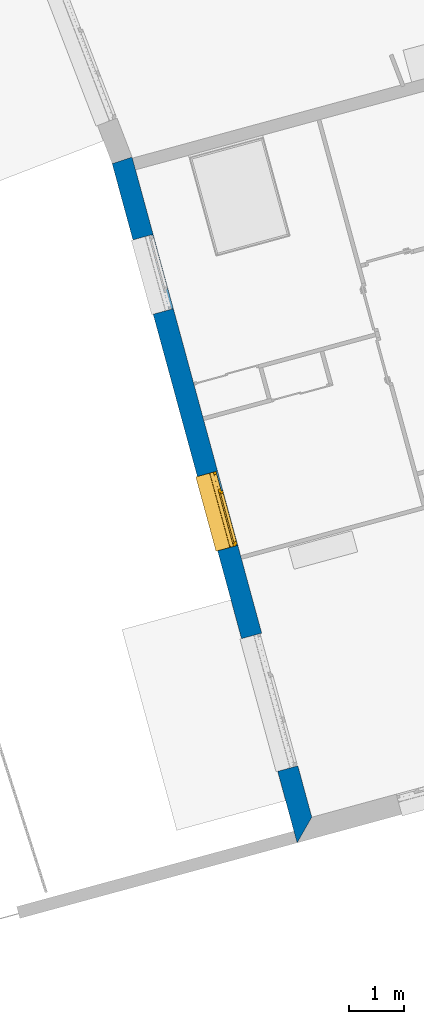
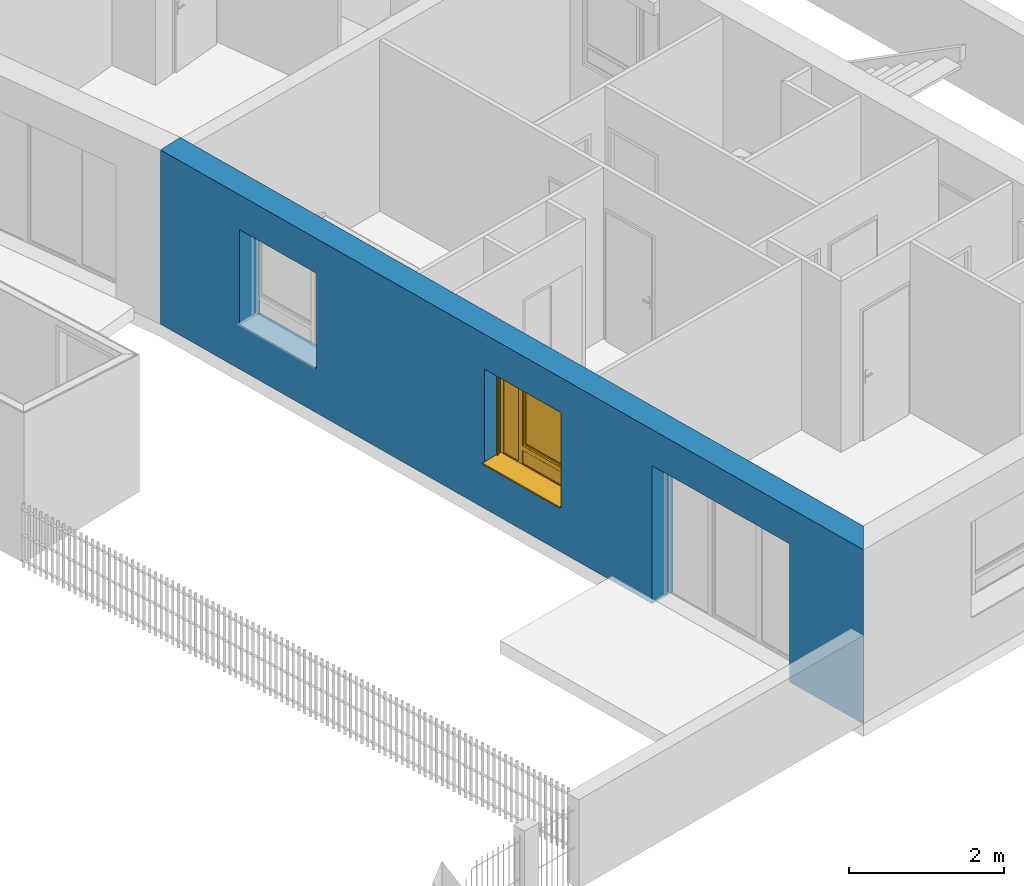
# One storey, part 71 of 195: 1 wall, 1 window, 3 openings.
"""IFC2X3 building model written with IfcOpenShell, lengths in metres."""

from ifc_helpers import new_model, entity, si_unit, converted_unit, derived_unit, money_unit, direction, frame, origin_with_axes, place, context, subcontext, project, spatial, polyline, outline, extrude, open_shell, faceted_brep, surface_model, source, transform, mapped, material, layer, layer_set, layer_usage, type_object, element, fill, save


model = new_model("IFC2X3")

# Units and contexts
model_context = context("Model", 3, precision=1e-05, world=origin_with_axes(), true_north=direction((0.0, 1.0)))
body_context = subcontext(model_context, "Body", "Model", "MODEL_VIEW")
ifc_project = project(units=[si_unit("LENGTHUNIT", "METRE"), si_unit("AREAUNIT", "SQUARE_METRE"), si_unit("VOLUMEUNIT", "CUBIC_METRE"), converted_unit("PLANEANGLEUNIT", "DEGREE", entity("IfcPlaneAngleMeasure", 0.0174532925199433), si_unit("PLANEANGLEUNIT", "RADIAN"), dimensions=[0, 0, 0, 0, 0, 0, 0]), money_unit("CHF"), converted_unit("TIMEUNIT", "Year", entity("IfcTimeMeasure", 31557600.0), si_unit("TIMEUNIT", "SECOND"), dimensions=[0, 0, 1, 0, 0, 0, 0]), si_unit("MASSUNIT", "GRAM", prefix="KILO"), si_unit("THERMODYNAMICTEMPERATUREUNIT", "DEGREE_CELSIUS"), si_unit("LUMINOUSINTENSITYUNIT", "LUMEN"), si_unit("ENERGYUNIT", "JOULE", prefix="MEGA"), derived_unit("THERMALCONDUCTANCEUNIT", [(si_unit("POWERUNIT", "WATT"), 1), (si_unit("LENGTHUNIT", "METRE"), -1), (si_unit("THERMODYNAMICTEMPERATUREUNIT", "KELVIN"), -1)]), derived_unit("SPECIFICHEATCAPACITYUNIT", [(si_unit("ENERGYUNIT", "JOULE"), 1), (si_unit("MASSUNIT", "GRAM", prefix="KILO"), -1), (si_unit("THERMODYNAMICTEMPERATUREUNIT", "KELVIN"), -1)]), derived_unit("MASSDENSITYUNIT", [(si_unit("MASSUNIT", "GRAM", prefix="KILO"), 1), (si_unit("VOLUMEUNIT", "CUBIC_METRE"), -1)])], contexts=[model_context])

# Site, building, storey
site_placement = place(None, origin_with_axes())
site = spatial("IfcSite", under=ifc_project, at=site_placement, Name="Site", CompositionType="ELEMENT")
building_placement = place(site_placement, origin_with_axes())
building = spatial("IfcBuilding", under=site, at=building_placement, Name="Bâtiment", CompositionType="ELEMENT")
storey_placement = place(building_placement, origin_with_axes())
storey = spatial("IfcBuildingStorey", under=building, at=storey_placement, Name="rdc", CompositionType="ELEMENT", Elevation=0.0)

# Wall, openings, window
ifc_material_1 = material(Name="Parpaing 312445824")
ifc_layer_1 = layer(ifc_material_1, 0.22, ventilated="UNKNOWN")
ifc_material_2 = material(Name="Isolant styromousse 301821074")
ifc_layer_2 = layer(ifc_material_2, 0.16, ventilated="UNKNOWN")
ifc_layer_set = layer_set([ifc_layer_1, ifc_layer_2], Name="isol int 22+16 0836643197")
ifc_layer_usage = layer_usage(ifc_layer_set, "AXIS2", "POSITIVE", 0.0)
wall_type = type_object("IfcWallType", Name="isol int 22+16 0836643197 380", PredefinedType="NOTDEFINED")
wall_placement = place(storey_placement, frame((9586.378108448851, -1047.081991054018, 57.7), z_axis=(0.0, 0.0, 1.0), x_axis=(0.2627340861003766, -0.9648682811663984, 0.0)))
wall = element("IfcWallStandardCase", 1, at=wall_placement, inside=storey, type_object=wall_type, material=ifc_layer_usage, Name="Mur-113", context=body_context, shape_type="SweptSolid", body=[
    extrude(outline(polyline([(0.0, 0.0), (12.79727346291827, 0.0), (12.4172734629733, 0.3799999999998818), (-0.0193025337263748, 0.3799999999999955), (0.0, 0.0)])), origin_with_axes(), (0.0, 0.0, 1.0), 2.75),
])
opening_1_placement = place(wall_placement, frame((6.594852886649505, 0.0, 0.7000000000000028), z_axis=(0.0, 0.0, 1.0), x_axis=(1.0, 0.0, 0.0)))
opening_1 = element("IfcOpeningElement", 2, at=opening_1_placement, cuts=wall, Name="Fen-045", context=body_context, shape_type="Brep", body=[
    faceted_brep([(-0.6999999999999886, 0.4800000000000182, 1.5), (0.6999999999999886, 0.4800000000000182, 1.5), (0.6999999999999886, 3.625157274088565, 1.5), (-0.7000000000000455, 3.625157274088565, 1.5), (-0.6999999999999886, 0.4800000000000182, 1.700000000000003), (0.6999999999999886, 0.4800000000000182, 1.700000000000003), (0.6999999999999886, 0.3000000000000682, 1.5), (0.6999999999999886, 0.3000000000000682, 0.0), (0.6999999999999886, 3.625157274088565, 0.0), (-0.7000000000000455, 3.625157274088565, 0.0), (-0.6999999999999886, 0.3000000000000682, 1.5), (-0.6999999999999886, 0.3000000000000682, 0.0), (-0.6999999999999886, 0.2200000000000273, 1.5), (-0.6999999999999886, 0.2200000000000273, 1.700000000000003), (0.6999999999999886, 0.2199999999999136, 1.700000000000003), (0.6999999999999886, 0.2199999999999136, 1.5), (0.6999999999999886, -3.245157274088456, 1.5), (0.6999999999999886, -3.245157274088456, 0.0), (-0.6999999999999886, -3.245157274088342, 0.0), (-0.6999999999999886, -3.245157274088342, 1.5)], [[[0, 1, 2, 3]], [[1, 0, 4, 5]], [[1, 6, 7, 8, 2]], [[2, 8, 9, 3]], [[10, 0, 3, 9, 11]], [[0, 10, 12, 13, 4]], [[4, 13, 14, 5]], [[6, 1, 5, 14, 15]], [[6, 15, 16, 17, 7]], [[7, 11, 9, 8]], [[12, 10, 11, 18, 19]], [[12, 15, 14, 13]], [[15, 12, 19, 16]], [[19, 18, 17, 16]], [[11, 7, 17, 18]]]),
])
opening_2_placement = place(wall_placement, frame((10.19948912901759, 0.0, 0.0), z_axis=(0.0, 0.0, 1.0), x_axis=(1.0, 0.0, 0.0)))
element("IfcOpeningElement", 3, at=opening_2_placement, cuts=wall, Name="Fen-045", context=body_context, shape_type="Brep", body=[
    faceted_brep([(-1.25, 0.4800000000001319, 2.18), (1.25, 0.4800000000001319, 2.18), (1.25, 3.625157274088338, 2.18), (-1.25, 3.625157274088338, 2.18), (-1.25, 0.4800000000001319, 2.380000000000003), (1.25, 0.4800000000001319, 2.380000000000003), (1.25, 0.3000000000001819, 2.18), (1.250000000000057, 0.3000000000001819, 0.0), (1.25, 3.625157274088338, 0.0), (-1.25, 3.625157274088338, 0.0), (-1.25, 0.3000000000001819, 2.18), (-1.249999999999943, 0.3000000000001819, 0.0), (-1.25, 0.2200000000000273, 2.18), (-1.25, 0.2200000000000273, 2.380000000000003), (1.250000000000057, 0.2200000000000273, 2.380000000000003), (1.250000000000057, 0.2200000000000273, 2.18), (1.25, -3.245157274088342, 2.18), (1.25, -3.245157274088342, 0.0), (-1.249999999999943, -3.245157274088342, 0.0), (-1.249999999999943, -3.245157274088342, 2.18)], [[[0, 1, 2, 3]], [[1, 0, 4, 5]], [[1, 6, 7, 8, 2]], [[2, 8, 9, 3]], [[10, 0, 3, 9, 11]], [[0, 10, 12, 13, 4]], [[4, 13, 14, 5]], [[6, 1, 5, 14, 15]], [[6, 15, 16, 17, 7]], [[7, 11, 9, 8]], [[12, 10, 11, 18, 19]], [[12, 15, 14, 13]], [[15, 12, 19, 16]], [[19, 18, 17, 16]], [[11, 7, 17, 18]]]),
])
opening_3_placement = place(wall_placement, frame((2.136258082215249, 0.0, 0.7000000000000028), z_axis=(0.0, 0.0, 1.0), x_axis=(1.0, 0.0, 0.0)))
element("IfcOpeningElement", 4, at=opening_3_placement, cuts=wall, Name="Fen-045", context=body_context, shape_type="Brep", body=[
    faceted_brep([(-0.6999999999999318, 0.4800000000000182, 1.5), (0.7000000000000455, 0.4800000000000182, 1.5), (0.7000000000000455, 3.625157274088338, 1.5), (-0.6999999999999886, 3.625157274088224, 1.5), (-0.6999999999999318, 0.4800000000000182, 1.700000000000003), (0.7000000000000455, 0.4800000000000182, 1.700000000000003), (0.7000000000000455, 0.2999999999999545, 1.5), (0.7000000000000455, 0.2999999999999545, 0.0), (0.7000000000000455, 3.625157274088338, 0.0), (-0.6999999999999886, 3.625157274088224, 0.0), (-0.6999999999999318, 0.2999999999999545, 1.5), (-0.6999999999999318, 0.2999999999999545, 0.0), (-0.6999999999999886, 0.2199999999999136, 1.5), (-0.6999999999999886, 0.2199999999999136, 1.700000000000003), (0.7000000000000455, 0.2199999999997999, 1.700000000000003), (0.7000000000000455, 0.2199999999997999, 1.5), (0.7000000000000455, -3.245157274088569, 1.5), (0.7000000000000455, -3.245157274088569, 0.0), (-0.6999999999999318, -3.245157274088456, 0.0), (-0.6999999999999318, -3.245157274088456, 1.5)], [[[0, 1, 2, 3]], [[1, 0, 4, 5]], [[1, 6, 7, 8, 2]], [[2, 8, 9, 3]], [[10, 0, 3, 9, 11]], [[0, 10, 12, 13, 4]], [[14, 5, 4, 13]], [[6, 1, 5, 14, 15]], [[6, 15, 16, 17, 7]], [[7, 11, 9, 8]], [[12, 10, 11, 18, 19]], [[12, 15, 14, 13]], [[15, 12, 19, 16]], [[19, 18, 17, 16]], [[11, 7, 17, 18]]]),
])
window_style = type_object("IfcWindowStyle", Name="Fenêtre variable 27", ConstructionType="NOTDEFINED", OperationType="TRIPLE_PANEL_LEFT", ParameterTakesPrecedence=False, Sizeable=False)
shared_shape = source(origin_with_axes(), body_context, "Body", "SurfaceModel", [
    surface_model("IfcShellBasedSurfaceModel", [(0.7, -0.05100000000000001, 0.05), (-0.7, -0.05100000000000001, 0.05000000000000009), (-0.7, -0.05100000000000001, 0.04000000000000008), (0.7, -0.05100000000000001, 0.04), (-0.7, -0.3799999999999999, 0.02900000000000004), (0.7, -0.3799999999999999, 0.02899999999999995), (-0.7, -0.3799999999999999, 0.00900000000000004), (0.7, -0.3799999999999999, 0.008999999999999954), (-0.7, -0.3699999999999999, 0.01900000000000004), (0.7, -0.3699999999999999, 0.01899999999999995)], [open_shell([[[0, 1, 2, 3]], [[3, 2, 4, 5]], [[5, 4, 6, 7]], [[7, 6, 8, 9]]])]),
    faceted_brep([(0.7, -0.13, 1.7), (0.7, 0.13, 1.7), (0.697, 0.13, 1.7), (0.697, -0.13, 1.7), (0.7, -0.13, 1.5), (0.7, 0.13, 1.5), (0.697, 0.13, 1.5), (0.697, -0.13, 1.5)], [[[0, 1, 2, 3]], [[0, 4, 5, 1]], [[1, 5, 6, 2]], [[3, 2, 6, 7]], [[4, 0, 3, 7]], [[5, 4, 7, 6]]]),
    faceted_brep([(-0.6970000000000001, -0.1299999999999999, 1.7), (-0.6970000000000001, 0.1300000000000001, 1.7), (-0.7000000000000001, 0.1300000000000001, 1.7), (-0.7000000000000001, -0.1299999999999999, 1.7), (-0.6970000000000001, -0.1299999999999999, 1.5), (-0.6970000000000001, 0.1300000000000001, 1.5), (-0.7000000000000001, 0.1300000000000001, 1.5), (-0.7000000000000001, -0.1299999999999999, 1.5)], [[[0, 1, 2, 3]], [[0, 4, 5, 1]], [[1, 5, 6, 2]], [[3, 2, 6, 7]], [[4, 0, 3, 7]], [[5, 4, 7, 6]]]),
    faceted_brep([(0.697, -0.13, 1.5), (0.697, -0.13, 1.7), (-0.697, -0.1299999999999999, 1.7), (-0.697, -0.1299999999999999, 1.5), (0.697, -0.127, 1.5), (0.697, -0.127, 1.697), (0.697, 0.127, 1.697), (0.697, 0.127, 1.503), (0.697, -0.108, 1.503), (0.697, -0.108, 1.5), (0.697, 0.13, 1.5), (0.697, 0.13, 1.7), (-0.697, 0.1300000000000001, 1.7), (-0.697, 0.1300000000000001, 1.5), (-0.697, -0.1079999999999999, 1.5), (-0.697, -0.1079999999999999, 1.503), (-0.697, 0.1270000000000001, 1.503), (-0.697, 0.1270000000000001, 1.697), (-0.697, -0.1269999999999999, 1.697), (-0.697, -0.1269999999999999, 1.5)], [[[0, 1, 2, 3]], [[0, 4, 5, 6, 7, 8, 9, 10, 11, 1]], [[1, 11, 12, 2]], [[3, 2, 12, 13, 14, 15, 16, 17, 18, 19]], [[4, 0, 3, 19]], [[5, 4, 19, 18]], [[6, 5, 18, 17]], [[7, 6, 17, 16]], [[8, 7, 16, 15]], [[9, 8, 15, 14]], [[10, 9, 14, 13]], [[11, 10, 13, 12]]]),
    faceted_brep([(0.694, -0.08075423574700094, 1.585760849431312), (0.694, -0.07705479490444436, 1.571954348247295), (0.694, -0.07101408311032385, 1.559), (0.694, -0.06281564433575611, 1.547291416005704), (0.694, -0.05270858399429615, 1.537184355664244), (0.694, -0.04099999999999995, 1.528985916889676), (0.694, -0.02804565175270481, 1.522945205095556), (0.694, -0.01423915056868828, 1.519245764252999), (0.694, 0.0, 1.518), (0.694, 0.01423915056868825, 1.519245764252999), (0.694, 0.02804565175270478, 1.522945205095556), (0.694, 0.04099999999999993, 1.528985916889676), (0.694, 0.05270858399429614, 1.537184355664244), (0.694, 0.06281564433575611, 1.547291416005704), (0.694, 0.07101408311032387, 1.559), (0.694, 0.07705479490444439, 1.571954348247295), (0.694, 0.08075423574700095, 1.585760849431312), (0.694, 0.0819999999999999, 1.6), (0.694, 0.08075423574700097, 1.614239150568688), (0.694, 0.0770547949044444, 1.628045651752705), (0.694, 0.07101408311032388, 1.641), (0.694, 0.06281564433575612, 1.652708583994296), (0.694, 0.05270858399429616, 1.662815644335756), (0.694, 0.04099999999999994, 1.671014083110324), (0.694, 0.02804565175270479, 1.677054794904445), (0.694, 0.01423915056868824, 1.680754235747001), (0.694, 0.0, 1.682), (0.694, -0.01423915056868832, 1.680754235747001), (0.694, -0.02804565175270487, 1.677054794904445), (0.694, -0.04100000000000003, 1.671014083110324), (0.694, -0.05270858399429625, 1.662815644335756), (0.694, -0.06281564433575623, 1.652708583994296), (0.694, -0.07101408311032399, 1.641), (0.694, -0.07705479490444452, 1.628045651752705), (0.694, -0.0807542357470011, 1.614239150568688), (0.694, -0.08200000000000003, 1.6), (-0.694, -0.08075423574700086, 1.585760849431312), (-0.694, -0.07705479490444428, 1.571954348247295), (-0.694, -0.07101408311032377, 1.559), (-0.694, -0.06281564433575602, 1.547291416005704), (-0.694, -0.05270858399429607, 1.537184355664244), (-0.694, -0.04099999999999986, 1.528985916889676), (-0.694, -0.02804565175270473, 1.522945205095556), (-0.694, -0.0142391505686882, 1.519245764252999), (-0.694, 0.0, 1.518), (-0.694, 0.01423915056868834, 1.519245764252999), (-0.694, 0.02804565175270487, 1.522945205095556), (-0.694, 0.04100000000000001, 1.528985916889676), (-0.694, 0.05270858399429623, 1.537184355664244), (-0.694, 0.06281564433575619, 1.547291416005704), (-0.694, 0.07101408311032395, 1.559), (-0.694, 0.07705479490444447, 1.571954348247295), (-0.694, 0.08075423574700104, 1.585760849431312), (-0.694, 0.08199999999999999, 1.6), (-0.694, 0.08075423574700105, 1.614239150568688), (-0.694, 0.07705479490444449, 1.628045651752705), (-0.694, 0.07101408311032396, 1.641), (-0.694, 0.0628156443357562, 1.652708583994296), (-0.694, 0.05270858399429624, 1.662815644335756), (-0.694, 0.04100000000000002, 1.671014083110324), (-0.694, 0.02804565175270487, 1.677054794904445), (-0.694, 0.01423915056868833, 1.680754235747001), (-0.694, 0.0, 1.682), (-0.694, -0.01423915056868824, 1.680754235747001), (-0.694, -0.02804565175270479, 1.677054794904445), (-0.694, -0.04099999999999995, 1.671014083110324), (-0.694, -0.05270858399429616, 1.662815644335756), (-0.694, -0.06281564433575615, 1.652708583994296), (-0.694, -0.07101408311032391, 1.641), (-0.694, -0.07705479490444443, 1.628045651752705), (-0.694, -0.08075423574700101, 1.614239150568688), (-0.694, -0.08199999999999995, 1.6)], [[[0, 1, 2, 3, 4, 5, 6, 7, 8, 9, 10, 11, 12, 13, 14, 15, 16, 17, 18, 19, 20, 21, 22, 23, 24, 25, 26, 27, 28, 29, 30, 31, 32, 33, 34, 35]], [[1, 0, 36, 37]], [[2, 1, 37, 38]], [[3, 2, 38, 39]], [[4, 3, 39, 40]], [[5, 4, 40, 41]], [[6, 5, 41, 42]], [[7, 6, 42, 43]], [[8, 7, 43, 44]], [[9, 8, 44, 45]], [[10, 9, 45, 46]], [[11, 10, 46, 47]], [[12, 11, 47, 48]], [[13, 12, 48, 49]], [[14, 13, 49, 50]], [[15, 14, 50, 51]], [[16, 15, 51, 52]], [[17, 16, 52, 53]], [[18, 17, 53, 54]], [[19, 18, 54, 55]], [[20, 19, 55, 56]], [[21, 20, 56, 57]], [[22, 21, 57, 58]], [[23, 22, 58, 59]], [[24, 23, 59, 60]], [[25, 24, 60, 61]], [[26, 25, 61, 62]], [[27, 26, 62, 63]], [[28, 27, 63, 64]], [[29, 28, 64, 65]], [[30, 29, 65, 66]], [[31, 30, 66, 67]], [[32, 31, 67, 68]], [[33, 32, 68, 69]], [[34, 33, 69, 70]], [[35, 34, 70, 71]], [[0, 35, 71, 36]], [[36, 71, 70, 69, 68, 67, 66, 65, 64, 63, 62, 61, 60, 59, 58, 57, 56, 55, 54, 53, 52, 51, 50, 49, 48, 47, 46, 45, 44, 43, 42, 41, 40, 39, 38, 37]]]),
    faceted_brep([(-0.7, -0.105, 0.03), (-0.7, -0.13, 0.03), (-0.7, -0.1299999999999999, 1.5), (-0.7, -0.1049999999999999, 1.5), (-0.6749999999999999, -0.105, 0.03), (-0.6749999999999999, -0.108, 0.03), (-0.697, -0.108, 0.03), (-0.697, -0.127, 0.03), (-0.6749999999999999, -0.127, 0.03), (-0.6749999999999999, -0.13, 0.03), (-0.6749999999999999, -0.1299999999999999, 1.5), (-0.6749999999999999, -0.1269999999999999, 1.5), (-0.697, -0.1269999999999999, 1.5), (-0.697, -0.1079999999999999, 1.5), (-0.6749999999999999, -0.1079999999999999, 1.5), (-0.6749999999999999, -0.1049999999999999, 1.5)], [[[0, 1, 2, 3]], [[0, 4, 5, 6, 7, 8, 9, 1]], [[1, 9, 10, 2]], [[3, 2, 10, 11, 12, 13, 14, 15]], [[4, 0, 3, 15]], [[5, 4, 15, 14]], [[6, 5, 14, 13]], [[7, 6, 13, 12]], [[8, 7, 12, 11]], [[9, 8, 11, 10]]]),
    faceted_brep([(0.7, -0.105, 0.03), (0.7, -0.1049999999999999, 1.5), (0.7, -0.1299999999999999, 1.5), (0.7, -0.13, 0.03), (0.6749999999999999, -0.105, 0.03), (0.6749999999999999, -0.1049999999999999, 1.5), (0.6749999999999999, -0.1079999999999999, 1.5), (0.697, -0.1079999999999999, 1.5), (0.697, -0.1269999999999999, 1.5), (0.6749999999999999, -0.1269999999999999, 1.5), (0.6749999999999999, -0.1299999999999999, 1.5), (0.6749999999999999, -0.13, 0.03), (0.6749999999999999, -0.127, 0.03), (0.697, -0.127, 0.03), (0.697, -0.108, 0.03), (0.6749999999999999, -0.108, 0.03)], [[[0, 1, 2, 3]], [[4, 5, 1, 0]], [[1, 5, 6, 7, 8, 9, 10, 2]], [[3, 2, 10, 11]], [[0, 3, 11, 12, 13, 14, 15, 4]], [[15, 6, 5, 4]], [[14, 7, 6, 15]], [[13, 8, 7, 14]], [[12, 9, 8, 13]], [[11, 10, 9, 12]]]),
    surface_model("IfcShellBasedSurfaceModel", [(0.697, -0.115, 1.6), (-0.697, -0.1149999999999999, 1.6), (-0.697, -0.12, 1.6), (0.697, -0.12, 1.6), (0.697, -0.115, 1.6), (0.697, -0.12, 1.6), (-0.697, -0.1199999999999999, 1.6), (-0.697, -0.1149999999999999, 1.6)], [open_shell([[[0, 1, 2, 3]], [[4, 5, 6, 7]]])]),
    faceted_brep([(0.697, -0.115, 1.6), (0.697, -0.1166666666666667, 1.583333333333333), (-0.697, -0.1166666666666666, 1.583333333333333), (-0.697, -0.1149999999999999, 1.6), (0.697, -0.12, 1.6), (0.697, -0.1216666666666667, 1.583333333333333), (0.697, -0.1216666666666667, 1.566666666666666), (0.697, -0.12, 1.55), (0.697, -0.115, 1.55), (0.697, -0.1166666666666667, 1.566666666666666), (-0.697, -0.1166666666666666, 1.566666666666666), (-0.697, -0.1149999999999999, 1.55), (-0.697, -0.1199999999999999, 1.55), (-0.697, -0.1216666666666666, 1.566666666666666), (-0.697, -0.1216666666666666, 1.583333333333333), (-0.697, -0.1199999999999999, 1.6)], [[[0, 1, 2, 3]], [[0, 4, 5, 6, 7, 8, 9, 1]], [[1, 9, 10, 2]], [[3, 2, 10, 11, 12, 13, 14, 15]], [[4, 0, 3, 15]], [[5, 4, 15, 14]], [[6, 5, 14, 13]], [[7, 6, 13, 12]], [[8, 7, 12, 11]], [[9, 8, 11, 10]]]),
    faceted_brep([(0.697, -0.115, 1.55), (0.697, -0.1166666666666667, 1.533333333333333), (-0.697, -0.1166666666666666, 1.533333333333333), (-0.697, -0.1149999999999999, 1.55), (0.697, -0.12, 1.55), (0.697, -0.1216666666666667, 1.533333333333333), (0.697, -0.1216666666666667, 1.516666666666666), (0.697, -0.12, 1.5), (0.697, -0.115, 1.5), (0.697, -0.1166666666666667, 1.516666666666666), (-0.697, -0.1166666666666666, 1.516666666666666), (-0.697, -0.1149999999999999, 1.5), (-0.697, -0.1199999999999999, 1.5), (-0.697, -0.1216666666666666, 1.516666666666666), (-0.697, -0.1216666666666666, 1.533333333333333), (-0.697, -0.1199999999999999, 1.55)], [[[0, 1, 2, 3]], [[0, 4, 5, 6, 7, 8, 9, 1]], [[1, 9, 10, 2]], [[3, 2, 10, 11, 12, 13, 14, 15]], [[4, 0, 3, 15]], [[5, 4, 15, 14]], [[6, 5, 14, 13]], [[7, 6, 13, 12]], [[8, 7, 12, 11]], [[9, 8, 11, 10]]]),
    faceted_brep([(0.6749999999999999, 0.0, 1.45), (0.6749999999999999, -0.02500000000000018, 1.45), (0.6499999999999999, -0.02500000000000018, 1.45), (0.6499999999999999, -0.05000000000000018, 1.45), (0.7, -0.05000000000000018, 1.45), (0.7, 0.0, 1.45), (0.6749999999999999, 0.0, 0.3099999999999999), (0.6749999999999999, -0.02500000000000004, 0.3099999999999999), (0.6499999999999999, -0.02500000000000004, 0.335), (0.6499999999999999, -0.02500000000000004, 0.3099999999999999), (0.6499999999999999, -0.05000000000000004, 0.335), (0.6499999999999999, -0.05000000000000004, 0.265), (0.6499999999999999, -0.05000000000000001, 0.05000000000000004), (0.7, -0.05000000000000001, 0.05000000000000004), (0.7, 0.0, 0.05000000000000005), (0.6499999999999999, 0.0, 0.05000000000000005), (0.6499999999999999, 0.0, 0.265), (0.6499999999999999, 0.0, 0.3099999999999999)], [[[0, 1, 2, 3, 4, 5]], [[1, 0, 6, 7]], [[8, 2, 1, 7, 9]], [[2, 8, 10, 3]], [[10, 11, 12, 13, 4, 3]], [[5, 4, 13, 14]], [[6, 0, 5, 14, 15, 16, 17]], [[6, 17, 9, 7]], [[9, 17, 16, 11, 10, 8]], [[15, 12, 11, 16]], [[14, 13, 12, 15]]]),
    faceted_brep([(-0.3068894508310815, -0.02500000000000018, 1.45), (-0.3318894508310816, -0.02500000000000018, 1.45), (-0.3318894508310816, 0.0, 1.45), (-0.3768894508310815, 0.0, 1.45), (-0.3768894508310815, -0.05000000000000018, 1.45), (-0.3068894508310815, -0.05000000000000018, 1.45), (-0.3068894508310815, -0.02500000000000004, 0.335), (-0.3068894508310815, -0.02500000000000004, 0.3099999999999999), (-0.3318894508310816, -0.02500000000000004, 0.3099999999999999), (-0.3318894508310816, 0.0, 0.3099999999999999), (-0.3068894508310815, 0.0, 0.3099999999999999), (-0.3068894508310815, 0.0, 0.265), (-0.3068894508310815, 0.0, 0.05000000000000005), (-0.3768894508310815, 0.0, 0.05000000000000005), (-0.3768894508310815, -0.05000000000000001, 0.05000000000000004), (-0.3068894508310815, -0.05000000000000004, 0.265), (-0.3068894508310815, -0.05000000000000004, 0.335), (-0.3068894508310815, -0.05000000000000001, 0.05000000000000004)], [[[0, 1, 2, 3, 4, 5]], [[1, 0, 6, 7, 8]], [[9, 2, 1, 8]], [[9, 10, 11, 12, 13, 3, 2]], [[13, 14, 4, 3]], [[15, 16, 5, 4, 14, 17]], [[6, 0, 5, 16]], [[7, 6, 16, 15, 11, 10]], [[10, 9, 8, 7]], [[11, 15, 17, 12]], [[12, 17, 14, 13]]]),
    faceted_brep([(0.6499999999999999, -0.02500000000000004, 0.335), (-0.3068894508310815, -0.02500000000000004, 0.335), (-0.3068894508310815, -0.05000000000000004, 0.335), (0.6499999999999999, -0.05000000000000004, 0.335), (-0.3068894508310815, -0.02500000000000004, 0.3099999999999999), (0.6499999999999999, -0.02500000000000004, 0.3099999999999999), (-0.3068894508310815, 0.0, 0.3099999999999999), (-0.3068894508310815, 0.0, 0.265), (-0.3068894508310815, -0.05000000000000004, 0.265), (0.6499999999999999, -0.05000000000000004, 0.265), (0.6499999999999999, 0.0, 0.265), (0.6499999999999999, 0.0, 0.3099999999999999)], [[[0, 1, 2, 3]], [[4, 1, 0, 5]], [[4, 6, 7, 8, 2, 1]], [[2, 8, 9, 3]], [[5, 0, 3, 9, 10, 11]], [[11, 6, 4, 5]], [[6, 11, 10, 7]], [[10, 9, 8, 7]]]),
    faceted_brep([(0.6749999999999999, 0.0, 1.45), (0.6749999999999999, 0.0, 1.475), (-0.3318894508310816, 0.0, 1.475), (-0.3318894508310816, 0.0, 1.45), (-0.3768894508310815, 0.0, 1.45), (-0.6499999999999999, 0.0, 1.45), (-0.7, 0.0, 1.45), (-0.7, 0.0, 1.5), (0.7, 0.0, 1.5), (0.7, 0.0, 1.45), (0.6749999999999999, -0.02500000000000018, 1.45), (0.6749999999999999, -0.02500000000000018, 1.475), (-0.3318894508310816, -0.02500000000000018, 1.475), (-0.3318894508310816, -0.02500000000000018, 1.45), (-0.3068894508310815, -0.02500000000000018, 1.45), (-0.3068894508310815, -0.05000000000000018, 1.45), (-0.3768894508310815, -0.05000000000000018, 1.45), (-0.6499999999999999, -0.05000000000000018, 1.45), (-0.7, -0.05000000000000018, 1.45), (-0.7, -0.05000000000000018, 1.5), (0.7, -0.05000000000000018, 1.5), (0.7, -0.05000000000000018, 1.45), (0.6499999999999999, -0.05000000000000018, 1.45), (0.6499999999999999, -0.02500000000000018, 1.45)], [[[0, 1, 2, 3, 4, 5, 6, 7, 8, 9]], [[1, 0, 10, 11]], [[2, 1, 11, 12]], [[3, 2, 12, 13]], [[13, 14, 15, 16, 4, 3]], [[4, 16, 17, 5]], [[5, 17, 18, 6]], [[6, 18, 19, 7]], [[7, 19, 20, 8]], [[8, 20, 21, 9]], [[10, 0, 9, 21, 22, 23]], [[14, 13, 12, 11, 10, 23]], [[14, 23, 22, 15]], [[16, 15, 22, 21, 20, 19, 18, 17]]]),
    faceted_brep([(-0.6499999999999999, -0.05000000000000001, 0.05), (-0.7, -0.05000000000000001, 0.05), (-0.7, 0.0, 0.05000000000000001), (-0.6499999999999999, 0.0, 0.05000000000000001), (-0.6499999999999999, -0.05000000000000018, 1.45), (-0.7, -0.05000000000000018, 1.45), (-0.7, 0.0, 1.45), (-0.6499999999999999, 0.0, 1.45)], [[[0, 1, 2, 3]], [[0, 4, 5, 1]], [[1, 5, 6, 2]], [[3, 2, 6, 7]], [[4, 0, 3, 7]], [[5, 4, 7, 6]]]),
    faceted_brep([(0.6499999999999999, -0.05000000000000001, 0.05), (0.7, -0.05000000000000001, 0.05), (0.7, 0.0, 0.05000000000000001), (0.6499999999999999, 0.0, 0.05000000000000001), (-0.3068894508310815, -0.05000000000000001, 0.05), (-0.3768894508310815, -0.05000000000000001, 0.05), (-0.6499999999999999, -0.05000000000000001, 0.05), (-0.7, -0.05000000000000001, 0.05), (-0.7, -0.05, 0.0), (0.7, -0.05, 0.0), (0.7, 0.0, 0.0), (-0.7, 0.0, 0.0), (-0.7, 0.0, 0.05000000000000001), (-0.6499999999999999, 0.0, 0.05000000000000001), (-0.3768894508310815, 0.0, 0.05000000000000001), (-0.3068894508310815, 0.0, 0.05000000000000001)], [[[0, 1, 2, 3]], [[0, 4, 5, 6, 7, 8, 9, 1]], [[1, 9, 10, 2]], [[3, 2, 10, 11, 12, 13, 14, 15]], [[4, 0, 3, 15]], [[5, 4, 15, 14]], [[6, 5, 14, 13]], [[7, 6, 13, 12]], [[8, 7, 12, 11]], [[9, 8, 11, 10]]]),
    faceted_brep([(0.625, -0.02500000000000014, 1.425), (0.6749999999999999, -0.02500000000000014, 1.425), (0.6749999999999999, 0.02499999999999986, 1.425), (0.625, 0.02499999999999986, 1.425), (0.625, -0.02500000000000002, 0.3599999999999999), (0.6749999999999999, -0.02500000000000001, 0.3599999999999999), (0.6749999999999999, 0.02499999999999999, 0.3599999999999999), (0.625, 0.02499999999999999, 0.3599999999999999)], [[[0, 1, 2, 3]], [[0, 4, 5, 1]], [[1, 5, 6, 2]], [[3, 2, 6, 7]], [[4, 0, 3, 7]], [[5, 4, 7, 6]]]),
    faceted_brep([(-0.2818894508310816, -0.02500000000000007, 0.3599999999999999), (-0.3318894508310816, -0.02500000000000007, 0.3599999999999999), (-0.3318894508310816, 0.02499999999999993, 0.3599999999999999), (-0.2818894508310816, 0.02499999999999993, 0.3599999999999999), (-0.2818894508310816, -0.0250000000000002, 1.425), (-0.3318894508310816, -0.0250000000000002, 1.425), (-0.3318894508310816, 0.0249999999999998, 1.425), (-0.2818894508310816, 0.0249999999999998, 1.425)], [[[0, 1, 2, 3]], [[0, 4, 5, 1]], [[1, 5, 6, 2]], [[3, 2, 6, 7]], [[4, 0, 3, 7]], [[5, 4, 7, 6]]]),
    faceted_brep([(-0.3318894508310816, -0.02500000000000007, 0.3099999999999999), (-0.3318894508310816, -0.02500000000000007, 0.3599999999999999), (-0.3318894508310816, 0.02499999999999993, 0.3599999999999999), (-0.3318894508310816, 0.02499999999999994, 0.3099999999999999), (0.6749999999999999, -0.025, 0.3099999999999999), (0.6749999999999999, -0.02500000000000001, 0.3599999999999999), (0.625, -0.02500000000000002, 0.3599999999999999), (-0.2818894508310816, -0.02500000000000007, 0.3599999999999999), (-0.2818894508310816, 0.02499999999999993, 0.3599999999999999), (0.625, 0.02499999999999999, 0.3599999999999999), (0.6749999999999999, 0.02499999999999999, 0.3599999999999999), (0.6749999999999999, 0.02499999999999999, 0.3099999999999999)], [[[0, 1, 2, 3]], [[0, 4, 5, 6, 7, 1]], [[1, 7, 8, 2]], [[3, 2, 8, 9, 10, 11]], [[4, 0, 3, 11]], [[5, 4, 11, 10]], [[6, 5, 10, 9]], [[7, 6, 9, 8]]]),
    faceted_brep([(0.6749999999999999, -0.02500000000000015, 1.475), (0.6749999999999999, -0.02500000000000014, 1.425), (0.6749999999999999, 0.02499999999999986, 1.425), (0.6749999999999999, 0.02499999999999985, 1.475), (-0.3318894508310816, -0.02500000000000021, 1.475), (-0.3318894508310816, -0.0250000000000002, 1.425), (-0.2818894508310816, -0.0250000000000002, 1.425), (0.625, -0.02500000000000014, 1.425), (0.625, 0.02499999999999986, 1.425), (-0.2818894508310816, 0.0249999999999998, 1.425), (-0.3318894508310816, 0.0249999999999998, 1.425), (-0.3318894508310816, 0.02499999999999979, 1.475)], [[[0, 1, 2, 3]], [[0, 4, 5, 6, 7, 1]], [[1, 7, 8, 2]], [[3, 2, 8, 9, 10, 11]], [[4, 0, 3, 11]], [[5, 4, 11, 10]], [[6, 5, 10, 9]], [[7, 6, 9, 8]]]),
    surface_model("IfcShellBasedSurfaceModel", [(0.625, -0.01000000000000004, 0.3599999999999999), (0.625, -0.01000000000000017, 1.425), (-0.2818894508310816, -0.01000000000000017, 1.425), (-0.2818894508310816, -0.01000000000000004, 0.3599999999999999)], [open_shell([[[0, 1, 2, 3]]])]),
    surface_model("IfcShellBasedSurfaceModel", [(0.625, 0.009999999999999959, 0.3599999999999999), (-0.2818894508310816, 0.009999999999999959, 0.3599999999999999), (-0.2818894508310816, 0.00999999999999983, 1.425), (0.625, 0.00999999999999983, 1.425)], [open_shell([[[0, 1, 2, 3]]])]),
    surface_model("IfcShellBasedSurfaceModel", [(-0.3768894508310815, -0.035, 0.05), (-0.3768894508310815, -0.03500000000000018, 1.45), (-0.65, -0.03500000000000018, 1.45), (-0.65, -0.035, 0.05)], [open_shell([[[0, 1, 2, 3]]])]),
    surface_model("IfcShellBasedSurfaceModel", [(-0.3768894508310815, -0.015, 0.05), (-0.65, -0.015, 0.05), (-0.65, -0.01500000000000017, 1.45), (-0.3768894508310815, -0.01500000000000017, 1.45)], [open_shell([[[0, 1, 2, 3]]])]),
    surface_model("IfcShellBasedSurfaceModel", [(0.6499999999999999, -0.035, 0.05), (0.6499999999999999, -0.03500000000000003, 0.265), (-0.3068894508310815, -0.03500000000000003, 0.265), (-0.3068894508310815, -0.035, 0.05)], [open_shell([[[0, 1, 2, 3]]])]),
    surface_model("IfcShellBasedSurfaceModel", [(0.6499999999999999, -0.015, 0.05), (-0.3068894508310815, -0.015, 0.05), (-0.3068894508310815, -0.01500000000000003, 0.265), (0.6499999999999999, -0.01500000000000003, 0.265)], [open_shell([[[0, 1, 2, 3]]])]),
])
window_placement = place(opening_1_placement, frame((-0.7000000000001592, 0.0, 0.0), z_axis=(0.0, 0.0, 1.0), x_axis=(1.0, 0.0, 0.0)))
window = element("IfcWindow", 5, at=window_placement, inside=storey, type_object=window_style, Name="Fen-045", OverallHeight=1.5, OverallWidth=1.4, context=body_context, shape_type="MappedRepresentation", body=[
    mapped(shared_shape, transform((0.6999999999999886, 0.3500000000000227, 0.0))),
])
fill(opening_1, window)

save(model, "model.ifc")
